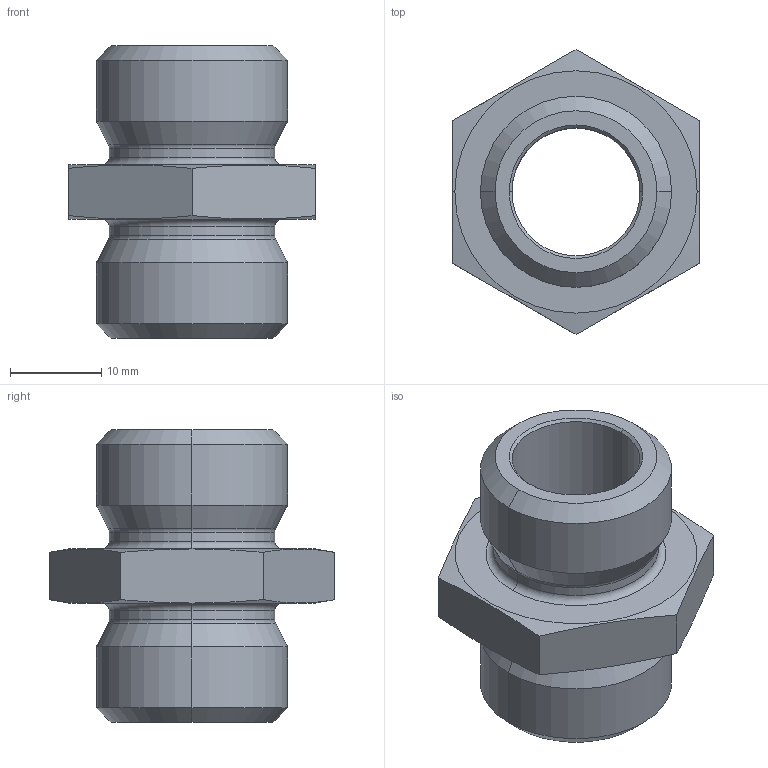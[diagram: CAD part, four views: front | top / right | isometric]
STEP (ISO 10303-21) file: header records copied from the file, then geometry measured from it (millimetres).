
FILE_DESCRIPTION (( 'STEP AP214' ), '1' );
FILE_NAME ('19-0207-04_NORDS.STEP', '2024-09-04T05:40:08', ( '' ), ( '' ), 'SwSTEP 2.0', 'SolidWorks 2024', '' );
FILE_SCHEMA (( 'AUTOMOTIVE_DESIGN' ));
Length unit declared in the file: millimetre
Products named in the file (1): 19-0207-04_NORDS
Bounding box: 27 x 31.18 x 32 mm (x, y, z)
Volume: 7031 mm3; surface area: 4570.3 mm2
Topology: 1 solids, 1 shells, 44 faces, 96 edges, 56 vertices
Faces by surface type: cone 16, cylinder 10, plane 10, torus 8
Entity records: 1295 total; most frequent: CARTESIAN_POINT 301, DIRECTION 218, ORIENTED_EDGE 192, EDGE_CURVE 96, AXIS2_PLACEMENT_3D 93, VERTEX_POINT 56, CIRCLE 48, EDGE_LOOP 48
